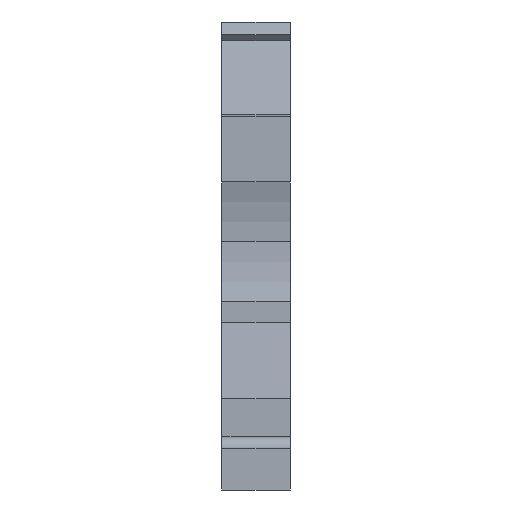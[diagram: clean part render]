
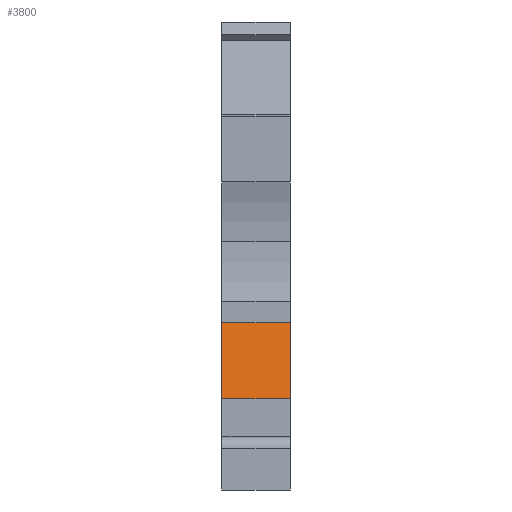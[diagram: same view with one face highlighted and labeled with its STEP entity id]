
A CAD part, front view. The second image highlights one B-rep face of the part: STEP entity #3800.
In plain terms, the highlighted planar face has unit normal (0, -0.985, 0.174).
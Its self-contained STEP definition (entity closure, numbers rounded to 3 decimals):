
#190=CARTESIAN_POINT('',(5.15,4.612,12.6));
#191=VERTEX_POINT('',#190);
#198=CARTESIAN_POINT('',(5.15,3.6,6.862));
#199=VERTEX_POINT('',#198);
#200=CARTESIAN_POINT('',(5.15,4.612,12.6));
#201=DIRECTION('',(-0.,-0.174,-0.985));
#202=VECTOR('',#201,5.827);
#203=LINE('',#200,#202);
#204=EDGE_CURVE('',#191,#199,#203,.T.);
#1126=CARTESIAN_POINT('',(-0.,3.6,6.862));
#1127=VERTEX_POINT('',#1126);
#1134=CARTESIAN_POINT('',(0.,4.612,12.6));
#1135=VERTEX_POINT('',#1134);
#1136=CARTESIAN_POINT('',(-0.,3.6,6.862));
#1137=DIRECTION('',(0.,0.174,0.985));
#1138=VECTOR('',#1137,5.827);
#1139=LINE('',#1136,#1138);
#1140=EDGE_CURVE('',#1127,#1135,#1139,.T.);
#1953=CARTESIAN_POINT('',(-0.,3.6,6.862));
#1954=DIRECTION('',(1.,-0.,0.));
#1955=VECTOR('',#1954,5.15);
#1956=LINE('',#1953,#1955);
#1957=EDGE_CURVE('',#1127,#199,#1956,.T.);
#3777=CARTESIAN_POINT('',(5.15,4.612,12.6));
#3778=DIRECTION('',(-1.,0.,-0.));
#3779=VECTOR('',#3778,5.15);
#3780=LINE('',#3777,#3779);
#3781=EDGE_CURVE('',#191,#1135,#3780,.T.);
#3789=CARTESIAN_POINT('',(5.15,3.801,8.));
#3790=DIRECTION('',(-0.,-0.985,0.174));
#3791=DIRECTION('',(0.,0.174,0.985));
#3792=AXIS2_PLACEMENT_3D('',#3789,#3790,#3791);
#3793=PLANE('',#3792);
#3794=ORIENTED_EDGE('',*,*,#1140,.F.);
#3795=ORIENTED_EDGE('',*,*,#1957,.T.);
#3796=ORIENTED_EDGE('',*,*,#204,.F.);
#3797=ORIENTED_EDGE('',*,*,#3781,.T.);
#3798=EDGE_LOOP('',(#3794,#3795,#3796,#3797));
#3799=FACE_BOUND('',#3798,.T.);
#3800=ADVANCED_FACE('',(#3799),#3793,.T.);
